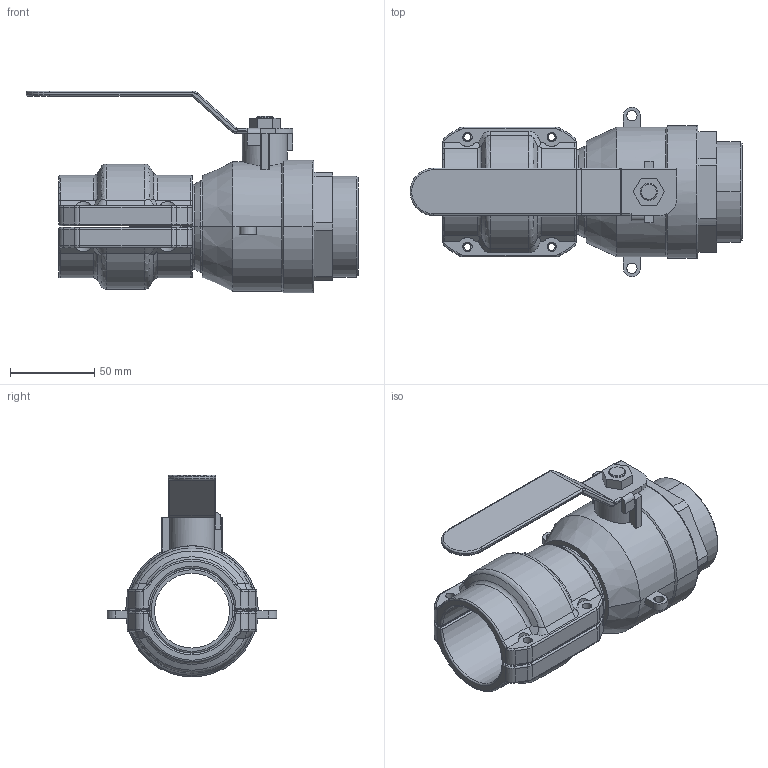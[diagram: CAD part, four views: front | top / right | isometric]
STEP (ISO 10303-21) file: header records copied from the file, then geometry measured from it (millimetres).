
FILE_DESCRIPTION((''),'2;1');
FILE_NAME('AU15535199_ASM','2017-05-13T',('li'),(''),'PRO/ENGINEER BY PARAMETRIC TECHNOLOGY CORPORATION, 2009360','PRO/ENGINEER BY PARAMETRIC TECHNOLOGY CORPORATION, 2009360','');
FILE_SCHEMA(('AUTOMOTIVE_DESIGN { 1 0 10303 214 1 1 1 1 }'));
Length unit declared in the file: millimetre
Products named in the file (5): AU15535100; 201550020001; 201550020000; 2015500200_ASM; AU15535199_ASM
Assembly tree (4 placements, depth 3):
  AU15535199_ASM
    AU15535100
    2015500200_ASM
      201550020001
      201550020000
Bounding box: 197.17 x 100.6 x 119.86 mm (x, y, z)
Volume: 266550.4 mm3; surface area: 111264.6 mm2
Topology: 3 solids, 3 shells, 375 faces, 944 edges, 583 vertices
Faces by surface type: cylinder 155, plane 103, torus 62, bspline 24, cone 23, sphere 8
Entity records: 15474 total; most frequent: CARTESIAN_POINT 3228, DIRECTION 1963, ORIENTED_EDGE 1888, PRESENTATION_STYLE_ASSIGNMENT 947, STYLED_ITEM 947, CURVE_STYLE 944, EDGE_CURVE 944, AXIS2_PLACEMENT_3D 776
